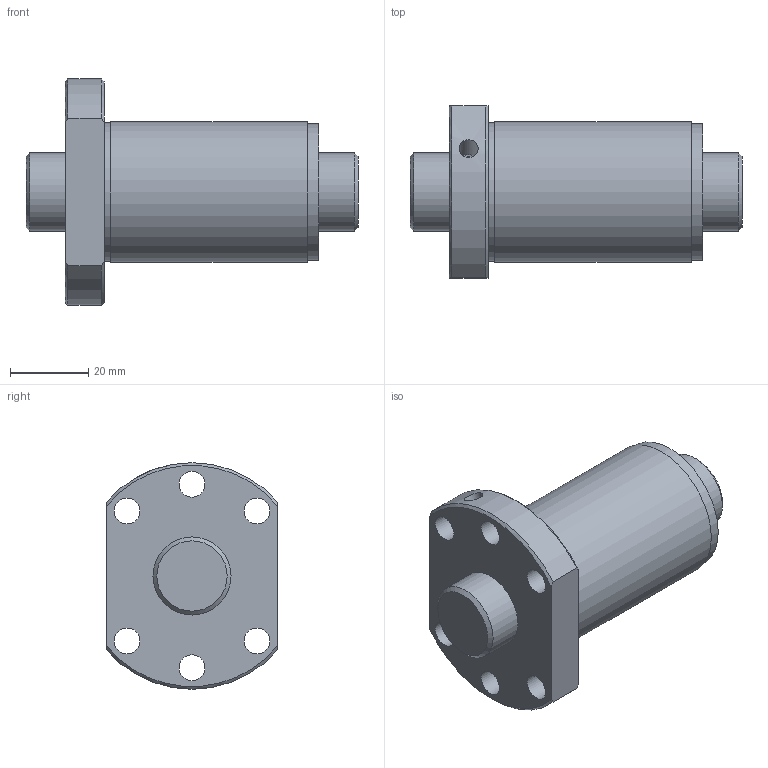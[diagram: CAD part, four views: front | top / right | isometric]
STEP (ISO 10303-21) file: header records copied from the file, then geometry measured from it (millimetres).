
FILE_DESCRIPTION(/* description */ ('STEP AP203'),/* implementation_level */ '2;1');
FILE_NAME(/* name */ 'SDA2030V-2G0+85LC0(0G000)',/* time_stamp */ '2024-05-28T11:30:19+02:00',/* author */ ('License CC BY-ND 4.0'),/* organization */ ('CADENAS'),/* preprocessor_version */ 'ST-DEVELOPER v19.3',/* originating_system */ 'PARTsolutions',/* authorisation */ ' ');
FILE_SCHEMA (('CONFIG_CONTROL_DESIGN'));
Length unit declared in the file: millimetre
Products named in the file (3): SDA2030V-2G0+85LC0(0G000); 000SDA2030V-20Shaft; SDA-V serieSDA2030V-2nut
Assembly tree (2 placements, depth 2):
  SDA2030V-2G0+85LC0(0G000)
    000SDA2030V-20Shaft
    SDA-V serieSDA2030V-2nut
Bounding box: 85 x 44 x 58 mm (x, y, z)
Volume: 82398.8 mm3; surface area: 22904.4 mm2
Topology: 2 solids, 2 shells, 31 faces, 74 edges, 50 vertices
Faces by surface type: cylinder 15, plane 9, cone 7
Full cylindrical faces by diameter (mm): 3.9 x1, 4.917 x1, 6.6 x6, 20 x2, 35 x1, 35.6 x1, 36 x1
Entity records: 915 total; most frequent: CARTESIAN_POINT 174, DIRECTION 144, ORIENTED_EDGE 104, AXIS2_PLACEMENT_3D 68, EDGE_LOOP 66, FACE_BOUND 66, EDGE_CURVE 52, VERTEX_POINT 44
